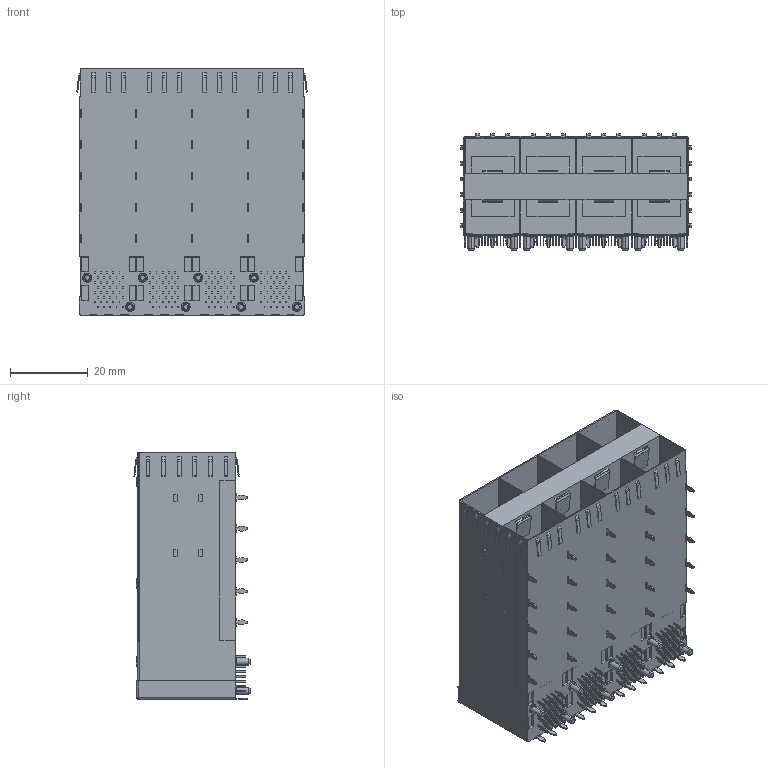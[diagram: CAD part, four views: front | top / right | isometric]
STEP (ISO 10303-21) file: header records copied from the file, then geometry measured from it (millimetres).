
FILE_DESCRIPTION (( 'STEP AP203' ), '1' );
FILE_NAME ('SFP 2X4 拸堎挴 拸絳嫖翐.STEP', '2024-01-24T12:05:38', ( '' ), ( '' ), 'SwSTEP 2.0', 'SolidWorks 2018', '' );
FILE_SCHEMA (( 'CONFIG_CONTROL_DESIGN' ));
Length unit declared in the file: millimetre
Products named in the file (1): SFP 2X4 拸堎挴 拸絳嫖翐
Bounding box: 59.05 x 29.8 x 63.25 mm (x, y, z)
Volume: 46725.9 mm3; surface area: 33670.2 mm2
Topology: 1 solids, 1 shells, 2334 faces, 6198 edges, 4118 vertices
Faces by surface type: plane 1750, cylinder 550, cone 32, sphere 2
Entity records: 72069 total; most frequent: CARTESIAN_POINT 12649, ORIENTED_EDGE 12392, DIRECTION 11998, EDGE_CURVE 6196, LINE 5064, VECTOR 5064, VERTEX_POINT 4118, AXIS2_PLACEMENT_3D 3467
